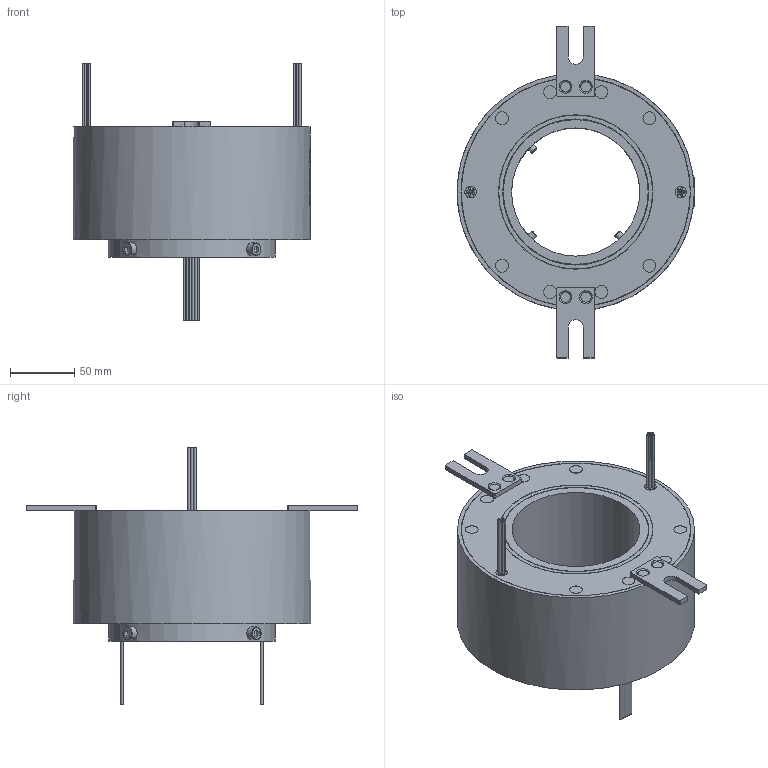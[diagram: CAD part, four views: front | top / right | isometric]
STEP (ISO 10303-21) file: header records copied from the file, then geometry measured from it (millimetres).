
FILE_DESCRIPTION(/* description */ (''),/* implementation_level */ '2;1');
FILE_NAME(/* name */ 'HD100185-1210-3D模型.stp',/* time_stamp */ '2025-09-04T17:47:23+08:00',/* author */ (''),/* organization */ (''),/* preprocessor_version */ 'ST-DEVELOPER v16.7',/* originating_system */ 'SIEMENS PLM Software NX 12.0',/* authorisation */ '');
FILE_SCHEMA (('AUTOMOTIVE_DESIGN { 1 0 10303 214 3 1 1 1 }'));
Length unit declared in the file: millimetre
Products named in the file (1): Admi8ABC6E1721hm
Bounding box: 185.47 x 259 x 201.1 mm (x, y, z)
Volume: 1762715.4 mm3; surface area: 144003.1 mm2
Topology: 1 solids, 5 shells, 813 faces, 2110 edges, 1401 vertices
Faces by surface type: plane 340, extrusion 340, cylinder 87, bspline 30, cone 12, torus 4
Full cylindrical faces by diameter (mm): 1.8 x24, 4 x4, 4.5 x4, 5 x1, 6 x7, 8 x4, 9 x2, 10 x12, 100 x1, 114 x1, 120 x1, 120.5 x1, 130 x1, 178.8 x2, 179 x2, 185 x1
Entity records: 30739 total; most frequent: CARTESIAN_POINT 13804, ORIENTED_EDGE 4000, DIRECTION 2148, EDGE_CURVE 2000, B_SPLINE_CURVE_WITH_KNOTS 1732, VERTEX_POINT 1375, EDGE_LOOP 1005, ADVANCED_FACE 813
